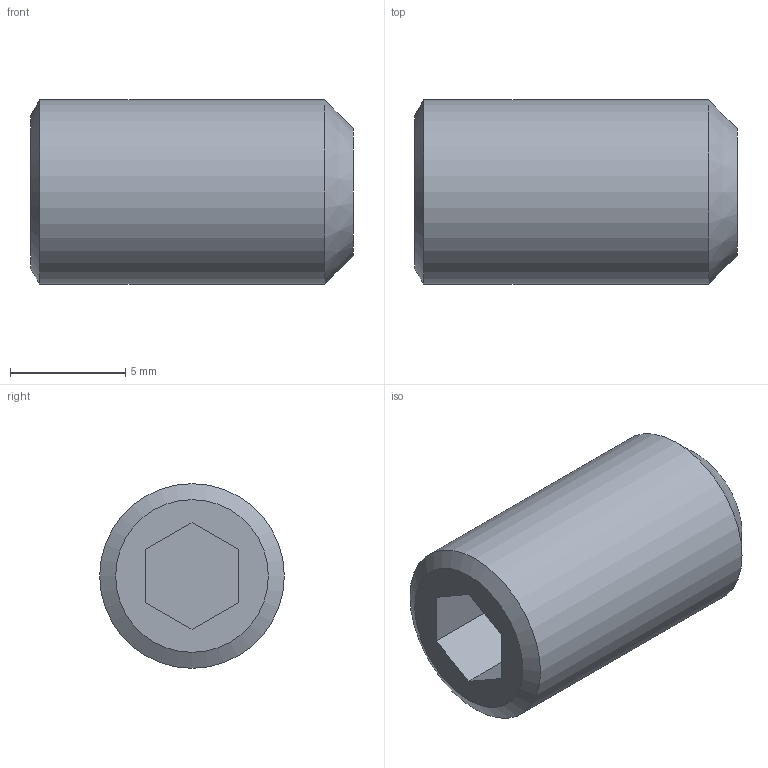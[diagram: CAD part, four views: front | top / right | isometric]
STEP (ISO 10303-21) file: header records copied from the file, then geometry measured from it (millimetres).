
FILE_DESCRIPTION (( 'STEP AP214' ), '1' );
FILE_NAME ('F11093.step', '2024-12-03T16:14:43', ( '' ), ( '' ), 'SwSTEP 2.0', 'SolidWorks 2023', '' );
FILE_SCHEMA (( 'AUTOMOTIVE_DESIGN' ));
Length unit declared in the file: millimetre
Products named in the file (1): F11093
Bounding box: 14 x 8 x 8 mm (x, y, z)
Volume: 613.6 mm3; surface area: 493.7 mm2
Topology: 1 solids, 1 shells, 12 faces, 25 edges, 16 vertices
Faces by surface type: plane 9, cone 2, cylinder 1
Full cylindrical faces by diameter (mm): 8 x1
Entity records: 325 total; most frequent: DIRECTION 52, CARTESIAN_POINT 51, ORIENTED_EDGE 44, EDGE_CURVE 22, VECTOR 18, LINE 18, AXIS2_PLACEMENT_3D 17, VERTEX_POINT 16
